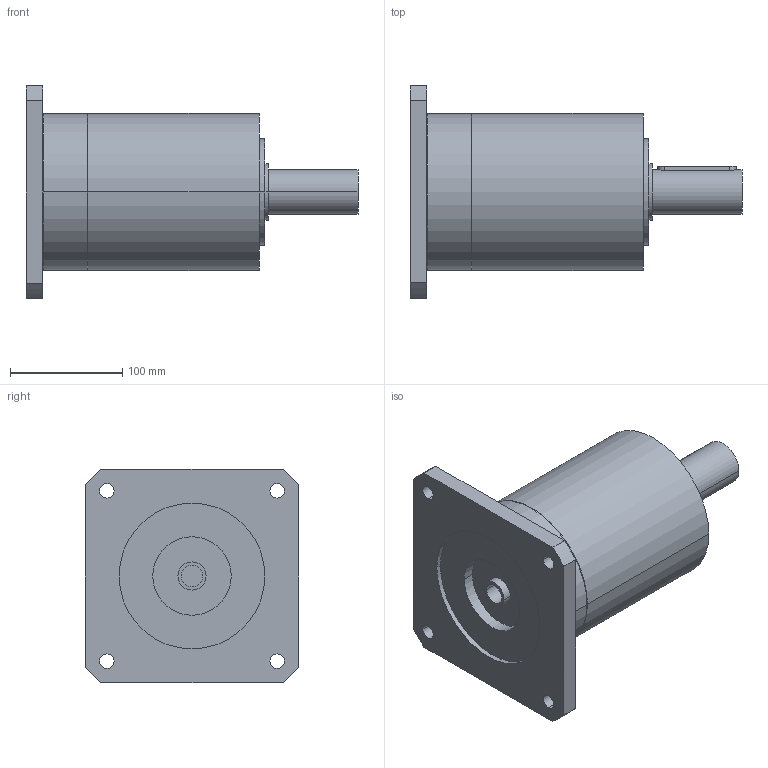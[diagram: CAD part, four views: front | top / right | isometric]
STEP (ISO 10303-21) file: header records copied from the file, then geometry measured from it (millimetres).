
FILE_DESCRIPTION(('CoCreate Modeling STEP Export'),'2;1');
FILE_NAME('GPR150_ig-9-12-16-20-28-35_40_B14_19_P13.stp','2014-08-19T17:03:23',(''),(''),'CoCreate Modeling STEP processor for AP214 (Solid Model)','CoCreate Modeling 16.00C 25-Feb-2009 (C) Parametric Technology GmbH','');
FILE_SCHEMA(('AUTOMOTIVE_DESIGN { 1 0 10303 214 1 1 1 1 }'));
Length unit declared in the file: millimetre
Products named in the file (2): GPR150_ig-9-12-16-20-28-35_40_B14_19_P13
Assembly tree (1 placements, depth 2):
  GPR150_ig-9-12-16-20-28-35_40_B14_19_P13
    GPR150_ig-9-12-16-20-28-35_40_B14_19_P13
Bounding box: 296 x 190 x 190 mm (x, y, z)
Volume: 3522039.3 mm3; surface area: 193736.9 mm2
Topology: 1 solids, 1 shells, 70 faces, 189 edges, 133 vertices
Faces by surface type: cylinder 42, plane 22, cone 6
Entity records: 1973 total; most frequent: CARTESIAN_POINT 386, ORIENTED_EDGE 374, DIRECTION 264, EDGE_CURVE 187, VERTEX_POINT 133, AXIS2_PLACEMENT_3D 99, EDGE_LOOP 92, FACE_OUTER_BOUND 70
